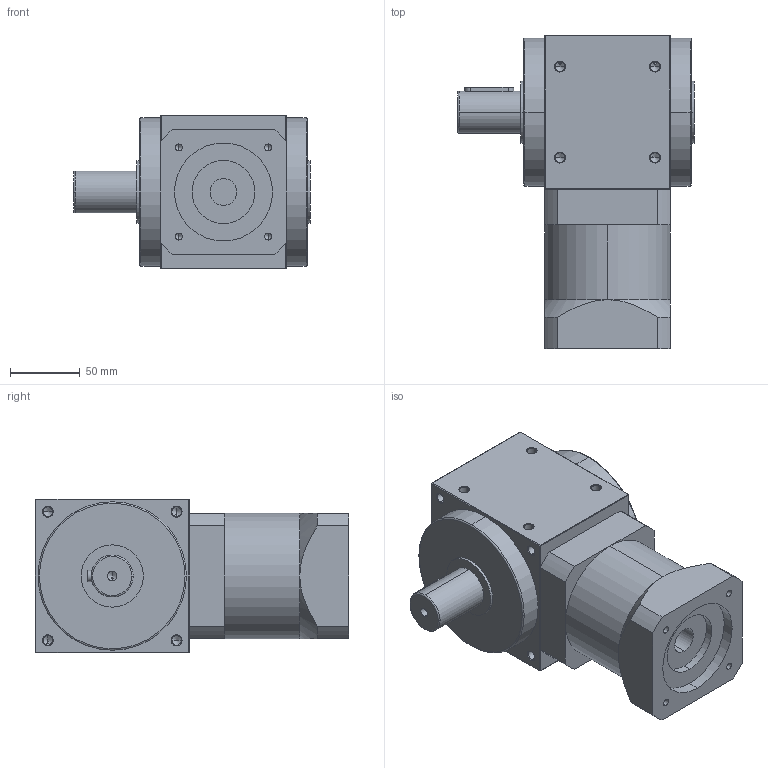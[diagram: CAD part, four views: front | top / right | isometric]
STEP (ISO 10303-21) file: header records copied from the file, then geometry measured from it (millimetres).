
FILE_DESCRIPTION (( 'STEP AP214' ), '1' );
FILE_NAME ('AAW110AS-10-2P-L1(3-10) 19-70-90-M6.STEP', '2020-11-24T05:39:46', ( '微软用户' ), ( '微软中国' ), 'SwSTEP 2.0', 'SolidWorks 2014', '' );
FILE_SCHEMA (( 'AUTOMOTIVE_DESIGN' ));
Length unit declared in the file: millimetre
Products named in the file (2): AAW110AS-10-2P-L1(3-10) 19-70-90-M6
Bounding box: 169 x 224 x 110 mm (x, y, z)
Volume: 2135363.6 mm3; surface area: 146293.8 mm2
Topology: 2 solids, 2 shells, 232 faces, 573 edges, 322 vertices
Faces by surface type: cone 94, cylinder 80, plane 52, torus 6
Entity records: 9290 total; most frequent: CARTESIAN_POINT 1324, DIRECTION 1216, ORIENTED_EDGE 1046, EDGE_CURVE 523, AXIS2_PLACEMENT_3D 484, VERTEX_POINT 322, EDGE_LOOP 267, CIRCLE 250
